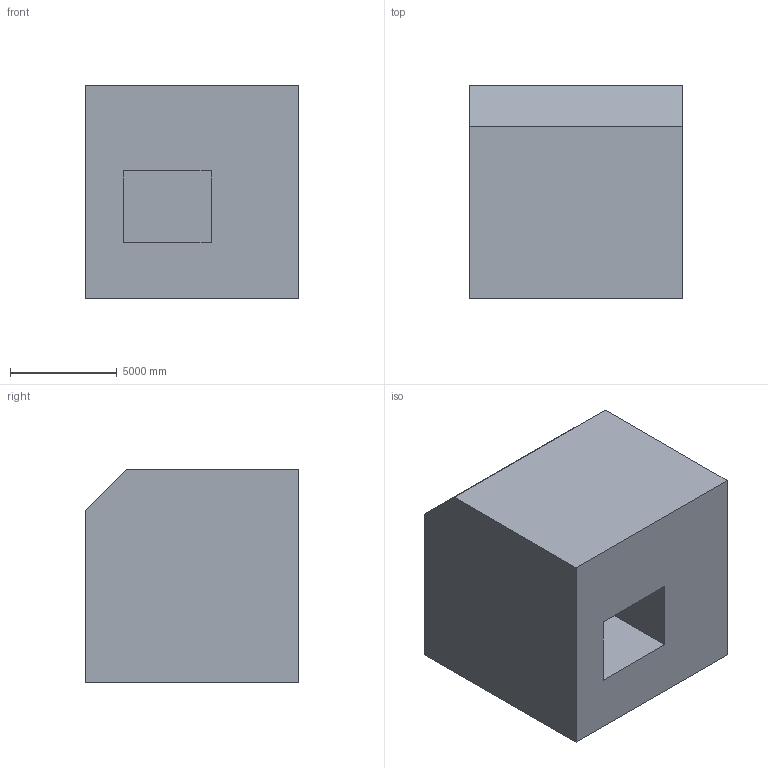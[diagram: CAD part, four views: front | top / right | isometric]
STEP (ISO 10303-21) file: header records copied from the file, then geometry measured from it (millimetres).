
FILE_DESCRIPTION (( 'STEP AP203' ), '1' );
FILE_NAME ('1196.STEP', '2022-08-18T13:08:21', ( 'user' ), ( '' ), 'SwSTEP 2.0', 'SolidWorks 2021', '' );
FILE_SCHEMA (( 'CONFIG_CONTROL_DESIGN' ));
Length unit declared in the file: centimetre
Products named in the file (1): 1196
Bounding box: 10000 x 10000 x 10000 mm (x, y, z)
Volume: 865072711423.5 mm3; surface area: 711459377.6 mm2
Topology: 1 solids, 1 shells, 12 faces, 27 edges, 18 vertices
Faces by surface type: plane 12
Entity records: 408 total; most frequent: CARTESIAN_POINT 58, ORIENTED_EDGE 54, DIRECTION 53, VECTOR 27, LINE 27, EDGE_CURVE 27, VERTEX_POINT 18, AXIS2_PLACEMENT_3D 13
